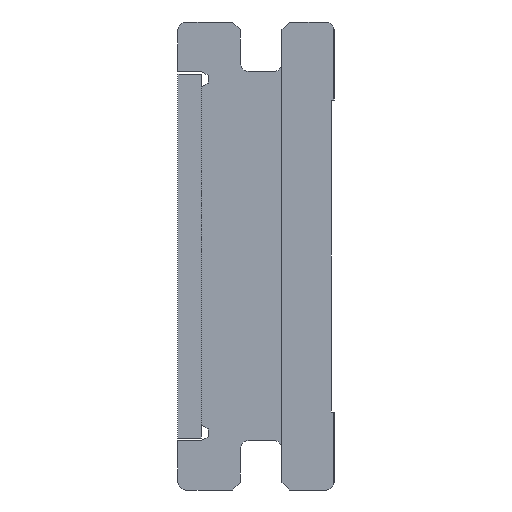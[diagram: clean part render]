
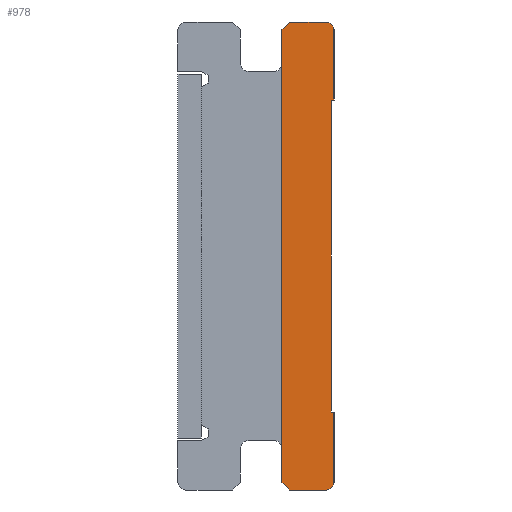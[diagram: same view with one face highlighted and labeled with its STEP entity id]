
A CAD part, left-side view. The second image highlights one B-rep face of the part: STEP entity #978.
In plain terms, the highlighted planar face has unit normal (-1, 0, 0).
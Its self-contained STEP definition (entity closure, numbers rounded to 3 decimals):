
#27 = EDGE_CURVE ( 'NONE', #922, #1981, #1377, .T. ) ;
#55 = VERTEX_POINT ( 'NONE', #1185 ) ;
#81 = DIRECTION ( 'NONE',  ( 0., -0.707, 0.707 ) ) ;
#86 = CARTESIAN_POINT ( 'NONE',  ( 0., 1.7, 0. ) ) ;
#105 = CIRCLE ( 'NONE', #1505, 0.3 ) ;
#109 = VECTOR ( 'NONE', #1265, 1000. ) ;
#138 = DIRECTION ( 'NONE',  ( 0., 0., -1. ) ) ;
#154 = EDGE_CURVE ( 'NONE', #1981, #917, #1067, .T. ) ;
#171 = EDGE_CURVE ( 'NONE', #619, #2089, #1405, .T. ) ;
#272 = VECTOR ( 'NONE', #1798, 1000. ) ;
#317 = VECTOR ( 'NONE', #1892, 1000. ) ;
#318 = CARTESIAN_POINT ( 'NONE',  ( 0., 0., -15. ) ) ;
#333 = DIRECTION ( 'NONE',  ( 0., 0., -1. ) ) ;
#338 = VERTEX_POINT ( 'NONE', #2309 ) ;
#343 = DIRECTION ( 'NONE',  ( 1., 0., 0. ) ) ;
#377 = VERTEX_POINT ( 'NONE', #513 ) ;
#406 = LINE ( 'NONE', #780, #1266 ) ;
#415 = DIRECTION ( 'NONE',  ( 0., 0., -1. ) ) ;
#419 = LINE ( 'NONE', #1179, #685 ) ;
#451 = CARTESIAN_POINT ( 'NONE',  ( 0., 0.3, -0.3 ) ) ;
#458 = EDGE_CURVE ( 'NONE', #917, #928, #2258, .T. ) ;
#513 = CARTESIAN_POINT ( 'NONE',  ( 0., 0., -0.3 ) ) ;
#523 = EDGE_CURVE ( 'NONE', #1504, #619, #2197, .T. ) ;
#613 = ORIENTED_EDGE ( 'NONE', *, *, #458, .F. ) ;
#619 = VERTEX_POINT ( 'NONE', #86 ) ;
#637 = DIRECTION ( 'NONE',  ( 1., 0., 0. ) ) ;
#685 = VECTOR ( 'NONE', #1944, 1000. ) ;
#698 = LINE ( 'NONE', #1849, #2161 ) ;
#704 = AXIS2_PLACEMENT_3D ( 'NONE', #2441, #343, #1513 ) ;
#763 = VECTOR ( 'NONE', #1191, 1000. ) ;
#780 = CARTESIAN_POINT ( 'NONE',  ( 0., 1.7, -18. ) ) ;
#817 = ORIENTED_EDGE ( 'NONE', *, *, #2461, .F. ) ;
#819 = CARTESIAN_POINT ( 'NONE',  ( 0., 0.3, -17.7 ) ) ;
#883 = EDGE_CURVE ( 'NONE', #338, #922, #1553, .T. ) ;
#887 = CARTESIAN_POINT ( 'NONE',  ( 0., 0., -15. ) ) ;
#917 = VERTEX_POINT ( 'NONE', #318 ) ;
#922 = VERTEX_POINT ( 'NONE', #1411 ) ;
#928 = VERTEX_POINT ( 'NONE', #1048 ) ;
#968 = CARTESIAN_POINT ( 'NONE',  ( 0., 0.1, -15. ) ) ;
#978 = ADVANCED_FACE ( 'NONE', ( #1022 ), #2021, .F. ) ;
#1015 = CARTESIAN_POINT ( 'NONE',  ( 0., 1.7, 0. ) ) ;
#1018 = VECTOR ( 'NONE', #81, 1000. ) ;
#1022 = FACE_OUTER_BOUND ( 'NONE', #2019, .T. ) ;
#1035 = VERTEX_POINT ( 'NONE', #1315 ) ;
#1048 = CARTESIAN_POINT ( 'NONE',  ( 0., 0., -17.7 ) ) ;
#1055 = ORIENTED_EDGE ( 'NONE', *, *, #1232, .F. ) ;
#1067 = LINE ( 'NONE', #1650, #109 ) ;
#1173 = ORIENTED_EDGE ( 'NONE', *, *, #27, .F. ) ;
#1179 = CARTESIAN_POINT ( 'NONE',  ( 0., 2., -17.7 ) ) ;
#1185 = CARTESIAN_POINT ( 'NONE',  ( 0., 0.3, -18. ) ) ;
#1191 = DIRECTION ( 'NONE',  ( 0., 1., 0. ) ) ;
#1199 = ORIENTED_EDGE ( 'NONE', *, *, #1688, .F. ) ;
#1232 = EDGE_CURVE ( 'NONE', #928, #55, #105, .T. ) ;
#1236 = CIRCLE ( 'NONE', #1755, 0.3 ) ;
#1265 = DIRECTION ( 'NONE',  ( 0., -1., 0. ) ) ;
#1266 = VECTOR ( 'NONE', #1729, 1000. ) ;
#1302 = LINE ( 'NONE', #2463, #317 ) ;
#1315 = CARTESIAN_POINT ( 'NONE',  ( 0., 2., -17.7 ) ) ;
#1325 = ORIENTED_EDGE ( 'NONE', *, *, #2003, .F. ) ;
#1377 = LINE ( 'NONE', #2157, #2232 ) ;
#1405 = LINE ( 'NONE', #2173, #272 ) ;
#1411 = CARTESIAN_POINT ( 'NONE',  ( 0., 0.1, -3. ) ) ;
#1484 = ORIENTED_EDGE ( 'NONE', *, *, #171, .F. ) ;
#1504 = VERTEX_POINT ( 'NONE', #1623 ) ;
#1505 = AXIS2_PLACEMENT_3D ( 'NONE', #819, #1915, #1753 ) ;
#1509 = ORIENTED_EDGE ( 'NONE', *, *, #523, .F. ) ;
#1513 = DIRECTION ( 'NONE',  ( 0., 1., 0. ) ) ;
#1553 = LINE ( 'NONE', #1579, #763 ) ;
#1579 = CARTESIAN_POINT ( 'NONE',  ( 0., 0., -3. ) ) ;
#1623 = CARTESIAN_POINT ( 'NONE',  ( 0., 2., -0.3 ) ) ;
#1650 = CARTESIAN_POINT ( 'NONE',  ( 0., 0., -15. ) ) ;
#1688 = EDGE_CURVE ( 'NONE', #1035, #1504, #419, .T. ) ;
#1706 = CARTESIAN_POINT ( 'NONE',  ( 0., 0.3, 0. ) ) ;
#1729 = DIRECTION ( 'NONE',  ( 0., 0.707, 0.707 ) ) ;
#1753 = DIRECTION ( 'NONE',  ( 0., 0., -1. ) ) ;
#1755 = AXIS2_PLACEMENT_3D ( 'NONE', #451, #637, #1988 ) ;
#1798 = DIRECTION ( 'NONE',  ( 0., -1., 0. ) ) ;
#1849 = CARTESIAN_POINT ( 'NONE',  ( 0., 0., -0.3 ) ) ;
#1892 = DIRECTION ( 'NONE',  ( 0., 1., 0. ) ) ;
#1913 = VERTEX_POINT ( 'NONE', #2034 ) ;
#1915 = DIRECTION ( 'NONE',  ( 1., 0., 0. ) ) ;
#1934 = EDGE_CURVE ( 'NONE', #377, #338, #698, .T. ) ;
#1944 = DIRECTION ( 'NONE',  ( 0., 0., 1. ) ) ;
#1951 = ORIENTED_EDGE ( 'NONE', *, *, #2053, .F. ) ;
#1981 = VERTEX_POINT ( 'NONE', #968 ) ;
#1988 = DIRECTION ( 'NONE',  ( 0., 0., 1. ) ) ;
#2003 = EDGE_CURVE ( 'NONE', #1913, #1035, #406, .T. ) ;
#2007 = ORIENTED_EDGE ( 'NONE', *, *, #154, .F. ) ;
#2019 = EDGE_LOOP ( 'NONE', ( #1509, #1199, #1325, #1951, #1055, #613, #2007, #1173, #2148, #2116, #817, #1484 ) ) ;
#2021 = PLANE ( 'NONE',  #704 ) ;
#2034 = CARTESIAN_POINT ( 'NONE',  ( 0., 1.7, -18. ) ) ;
#2053 = EDGE_CURVE ( 'NONE', #55, #1913, #1302, .T. ) ;
#2089 = VERTEX_POINT ( 'NONE', #1706 ) ;
#2116 = ORIENTED_EDGE ( 'NONE', *, *, #1934, .F. ) ;
#2148 = ORIENTED_EDGE ( 'NONE', *, *, #883, .F. ) ;
#2157 = CARTESIAN_POINT ( 'NONE',  ( 0., 0.1, -3. ) ) ;
#2161 = VECTOR ( 'NONE', #333, 1000. ) ;
#2173 = CARTESIAN_POINT ( 'NONE',  ( 0., 0.3, 0. ) ) ;
#2197 = LINE ( 'NONE', #1015, #1018 ) ;
#2232 = VECTOR ( 'NONE', #415, 1000. ) ;
#2246 = VECTOR ( 'NONE', #138, 1000. ) ;
#2258 = LINE ( 'NONE', #887, #2246 ) ;
#2309 = CARTESIAN_POINT ( 'NONE',  ( 0., 0., -3. ) ) ;
#2441 = CARTESIAN_POINT ( 'NONE',  ( 0., 5.1, -15.8 ) ) ;
#2461 = EDGE_CURVE ( 'NONE', #2089, #377, #1236, .T. ) ;
#2463 = CARTESIAN_POINT ( 'NONE',  ( 0., 0.3, -18. ) ) ;
